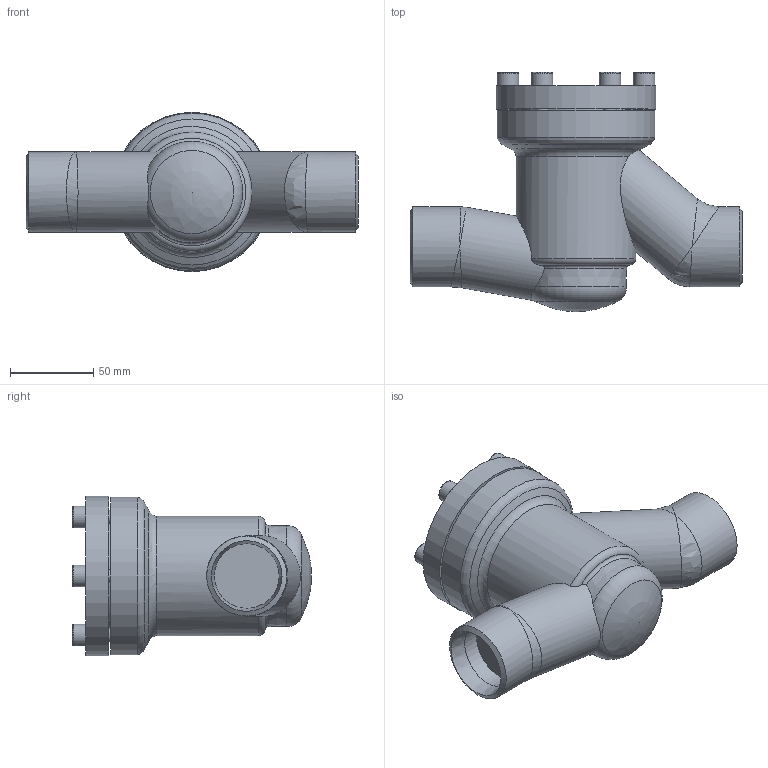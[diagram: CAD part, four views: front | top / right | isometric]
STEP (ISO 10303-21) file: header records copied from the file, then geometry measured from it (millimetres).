
FILE_DESCRIPTION((''),'2;1');
FILE_NAME('Y:\Home\AWP_CAD (2D+3D-Ansicht)\CAD Drawings\3D_STEP\RV D AE\RV D AE 28G00-40 PS25.stp','2012-08-27T11:54:45',('Lempe.Ha'),(''),'Autodesk Inventor 2012','Autodesk Inventor 2012','');
FILE_SCHEMA(('AUTOMOTIVE_DESIGN { 1 0 10303 214 1 1 1 1 }'));
Length unit declared in the file: millimetre
Products named in the file (4): 28G00C14A5A00000; 16G00E14.5034004; 28300E15.5141004; DIN 912 - ersetzt durch DIN EN ISO 4762 M8 x 25
Assembly tree (8 placements, depth 2):
  28G00C14A5A00000
    16G00E14.5034004
    28300E15.5141004
    DIN 912 - ersetzt durch DIN EN ISO 4762 M8 x 25  x6
Bounding box: 200 x 144 x 96 mm (x, y, z)
Volume: 659430.1 mm3; surface area: 127013.9 mm2
Topology: 8 solids, 8 shells, 165 faces, 372 edges, 225 vertices
Faces by surface type: plane 64, cylinder 43, cone 32, torus 20, bspline 6
Full cylindrical faces by diameter (mm): 6.647 x6, 8 x6, 9 x6, 13 x6, 39 x2, 48.3 x4, 51 x1, 53 x1, 55 x1, 60 x1, 62 x3, 64 x1, 70 x2, 72 x1, 95 x1, 96 x1
Entity records: 2513 total; most frequent: CARTESIAN_POINT 732, DIRECTION 376, ORIENTED_EDGE 228, AXIS2_PLACEMENT_3D 182, EDGE_LOOP 171, EDGE_CURVE 114, VERTEX_POINT 99, FACE_OUTER_BOUND 90
